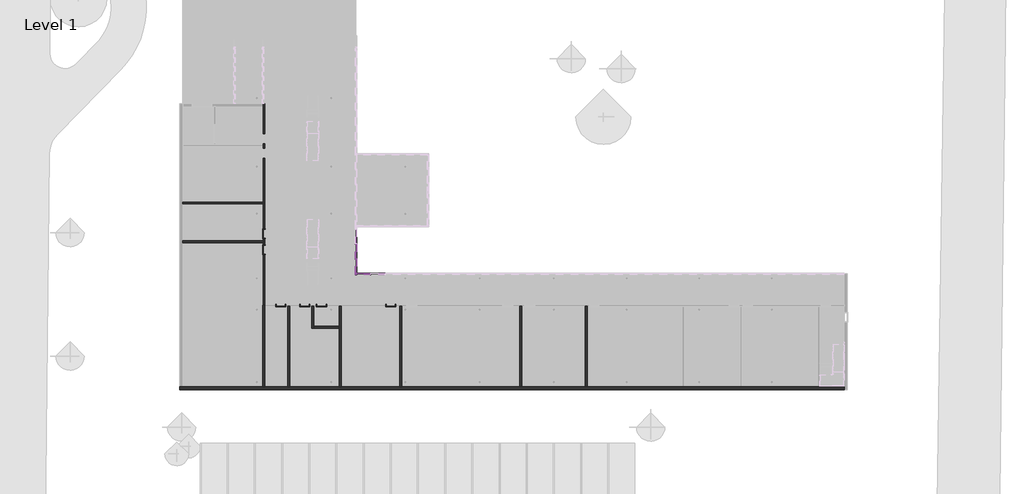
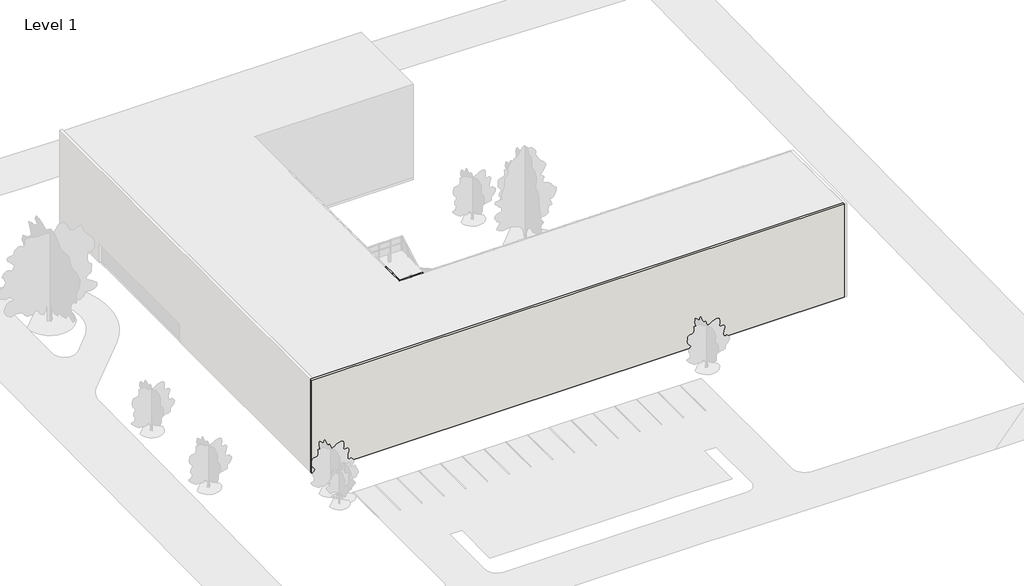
# One storey, part 1 of 27: 60 members, 32 plates, 12 walls, 6 doors.
"""IFC4 building model written with IfcOpenShell, lengths in millimetres."""

from ifc_helpers import new_model, si_unit, origin, origin_with_axes, place, context, project, spatial, polyline, outline, extrude, faceted_brep, transform, mapped, element, save
from components import door_0915mm_x_2134mm_2aa27b83, door_0915mm_x_2134mm_3fa07aa3, quad_corner_mullion_quad_mullion_1_893af7fe, quad_corner_mullion_quad_mullion_1_37ac55ff, quad_corner_mullion_quad_mullion_1_d5379b67, rectangular_mullion_50mm_x_150mm_5f185edf, rectangular_mullion_50mm_x_150mm_e13fe9f0, rectangular_mullion_50mm_x_150mm_70cae3e1, rectangular_mullion_50mm_x_150mm_5226f6e8, rectangular_mullion_50mm_x_150mm_4fd86324, rectangular_mullion_50mm_x_150mm_6edb5cd3, rectangular_mullion_50mm_x_150mm_bba830a1, rectangular_mullion_50mm_x_150mm_9219ffc6, rectangular_mullion_50mm_x_150mm_bbc1c4ea, rectangular_mullion_50mm_x_150mm_36202a7c, rectangular_mullion_50mm_x_150mm_84717ec5, system_panel_glazed_65478968, system_panel_glazed_0eb4fe1c, system_panel_glazed_4c130a31, system_panel_glazed_ff4bdd81, system_panel_glazed_979b1f5c, system_panel_glazed_2d0f29b6, system_panel_glazed_2f061a2c, system_panel_glazed_cb2ac81e, system_panel_solid_368a6b70, system_panel_solid_83e87f64, system_panel_solid_59448bce, system_panel_solid_281aa57f, system_panel_solid_7338a288, system_panel_solid_71fc82a1, system_panel_solid_0b170172

model = new_model("IFC4")

# Units and contexts
model_context = context("Model", 3, world=origin())
ifc_project = project(units=[si_unit("LENGTHUNIT", "METRE", prefix="MILLI")], contexts=[model_context])

# Site, building, storey
site = spatial("IfcSite", under=ifc_project)
building = spatial("IfcBuilding", under=site)
storey = spatial("IfcBuildingStorey", under=building, Name="Level 1", Elevation=0.0)

# Doors
placement = place(None, origin())
door_0915mm_x_2134mm_shape = door_0915mm_x_2134mm_2aa27b83(model_context)
element("IfcDoor", 1, ObjectType="m-doors-hm-f1-a : 0915mm x 2134mm", at=placement, inside=storey, context=model_context, shape_type="MappedRepresentation", body=[
    mapped(door_0915mm_x_2134mm_shape, transform((-1995.8386635, -8075.8611817, 0.0), x_axis=(0.0, 1.0, 0.0), y_axis=(-1.0, 0.0, 0.0), z_axis=(0.0, 0.0, 1.0))),
])
element("IfcDoor", 2, ObjectType="m-doors-hm-f1-a : 0915mm x 2134mm", at=placement, inside=storey, context=model_context, shape_type="MappedRepresentation", body=[
    mapped(door_0915mm_x_2134mm_shape, transform((-123.8386635, -15479.7006057, 0.0), x_axis=(-1.0, 0.0, 0.0), y_axis=(0.0, -1.0, 0.0), z_axis=(0.0, 0.0, 1.0))),
])
element("IfcDoor", 3, ObjectType="m-doors-hm-f1-a : 0915mm x 2134mm", at=placement, inside=storey, context=model_context, shape_type="MappedRepresentation", body=[
    mapped(door_0915mm_x_2134mm_shape, transform((2284.1613365, -15479.7006057, 0.0), x_axis=(-1.0, 0.0, 0.0), y_axis=(0.0, -1.0, 0.0), z_axis=(0.0, 0.0, 1.0))),
])
element("IfcDoor", 4, ObjectType="m-doors-hm-f1-a : 0915mm x 2134mm", at=placement, inside=storey, context=model_context, shape_type="MappedRepresentation", body=[
    mapped(door_0915mm_x_2134mm_shape, transform((10961.1968037, -15479.7006057, 0.0), x_axis=(-1.0, 0.0, 0.0), y_axis=(0.0, -1.0, 0.0), z_axis=(0.0, 0.0, 1.0))),
])
door_0915mm_x_2134mm_2_shape = door_0915mm_x_2134mm_3fa07aa3(model_context)
element("IfcDoor", 5, ObjectType="m-doors-hm-f1-a : 0915mm x 2134mm", at=placement, inside=storey, context=model_context, shape_type="MappedRepresentation", body=[
    mapped(door_0915mm_x_2134mm_2_shape, transform((-1995.8386635, -9675.8611817, 0.0), x_axis=(0.0, -1.0, 0.0), y_axis=(1.0, 0.0, 0.0), z_axis=(0.0, 0.0, 1.0))),
])
element("IfcDoor", 6, ObjectType="m-doors-hm-f1-a : 0915mm x 2134mm", at=placement, inside=storey, context=model_context, shape_type="MappedRepresentation", body=[
    mapped(door_0915mm_x_2134mm_2_shape, transform((3984.1613365, -15479.7006057, 0.0), x_axis=(1.0, 0.0, 0.0), y_axis=(0.0, 1.0, 0.0), z_axis=(0.0, 0.0, 1.0))),
])

# Members
quad_corner_mullion_quad_mullion_1_shape = quad_corner_mullion_quad_mullion_1_893af7fe(model_context)
element("IfcMember", 7, ObjectType="Quad Corner Mullion : Quad Mullion 1", at=placement, inside=storey, context=model_context, shape_type="MappedRepresentation", body=[
    mapped(quad_corner_mullion_quad_mullion_1_shape, transform((7447.5010724, -12132.3615692, 11400.0), x_axis=(-1.0, 0.0, 0.0), y_axis=(0.0, 1.0, 0.0), z_axis=(0.0, 0.0, -1.0))),
])
quad_corner_mullion_quad_mullion_1_2_shape = quad_corner_mullion_quad_mullion_1_37ac55ff(model_context)
element("IfcMember", 8, ObjectType="Quad Corner Mullion : Quad Mullion 1", at=placement, inside=storey, context=model_context, shape_type="MappedRepresentation", body=[
    mapped(quad_corner_mullion_quad_mullion_1_2_shape, transform((7447.5010724, -12132.3615692, 0.0), x_axis=(-1.0, 0.0, 0.0), y_axis=(0.0, 1.0, 0.0), z_axis=(0.0, 0.0, -1.0))),
])
quad_corner_mullion_quad_mullion_1_3_shape = quad_corner_mullion_quad_mullion_1_d5379b67(model_context)
element("IfcMember", 9, ObjectType="Quad Corner Mullion : Quad Mullion 1", at=placement, inside=storey, context=model_context, shape_type="MappedRepresentation", body=[
    mapped(quad_corner_mullion_quad_mullion_1_3_shape, transform((7447.5010724, -12132.3615692, 2440.0), x_axis=(-1.0, 0.0, 0.0), y_axis=(0.0, 1.0, 0.0), z_axis=(0.0, 0.0, -1.0))),
])
element("IfcMember", 10, ObjectType="Quad Corner Mullion : Quad Mullion 1", at=placement, inside=storey, context=model_context, shape_type="MappedRepresentation", body=[
    mapped(quad_corner_mullion_quad_mullion_1_3_shape, transform((7447.5010724, -12132.3615692, 6240.0), x_axis=(-1.0, 0.0, 0.0), y_axis=(0.0, 1.0, 0.0), z_axis=(0.0, 0.0, -1.0))),
])
element("IfcMember", 11, ObjectType="Quad Corner Mullion : Quad Mullion 1", at=placement, inside=storey, context=model_context, shape_type="MappedRepresentation", body=[
    mapped(quad_corner_mullion_quad_mullion_1_3_shape, transform((7447.5010724, -12132.3615692, 10040.0), x_axis=(-1.0, 0.0, 0.0), y_axis=(0.0, 1.0, 0.0), z_axis=(0.0, 0.0, -1.0))),
])
element("IfcMember", 12, ObjectType="Quad Corner Mullion : Quad Mullion 1", at=placement, inside=storey, context=model_context, shape_type="MappedRepresentation", body=[
    mapped(quad_corner_mullion_quad_mullion_1_2_shape, transform((7447.5010724, -12132.3615692, 3800.0), x_axis=(-1.0, 0.0, 0.0), y_axis=(0.0, 1.0, 0.0), z_axis=(0.0, 0.0, -1.0))),
])
element("IfcMember", 13, ObjectType="Quad Corner Mullion : Quad Mullion 1", at=placement, inside=storey, context=model_context, shape_type="MappedRepresentation", body=[
    mapped(quad_corner_mullion_quad_mullion_1_2_shape, transform((7447.5010724, -12132.3615692, 7600.0), x_axis=(-1.0, 0.0, 0.0), y_axis=(0.0, 1.0, 0.0), z_axis=(0.0, 0.0, -1.0))),
])
rectangular_mullion_50mm_x_150mm_shape = rectangular_mullion_50mm_x_150mm_5f185edf(model_context)
element("IfcMember", 14, ObjectType="Rectangular Mullion : 50mm x 150mm", at=placement, inside=storey, context=model_context, shape_type="MappedRepresentation", body=[
    mapped(rectangular_mullion_50mm_x_150mm_shape, transform((8964.9742928, -12132.3615692, 12400.0), x_axis=(0.0, 0.0, 1.0), y_axis=(0.0, 1.0, 0.0), z_axis=(-1.0, 0.0, 0.0))),
])
rectangular_mullion_50mm_x_150mm_2_shape = rectangular_mullion_50mm_x_150mm_e13fe9f0(model_context)
element("IfcMember", 15, ObjectType="Rectangular Mullion : 50mm x 150mm", at=placement, inside=storey, context=model_context, shape_type="MappedRepresentation", body=[
    mapped(rectangular_mullion_50mm_x_150mm_2_shape, transform((8964.9742928, -12132.3615692, 3800.0), x_axis=(0.0, 0.0, 1.0), y_axis=(0.0, 1.0, 0.0), z_axis=(-1.0, 0.0, 0.0))),
])
element("IfcMember", 16, ObjectType="Rectangular Mullion : 50mm x 150mm", at=placement, inside=storey, context=model_context, shape_type="MappedRepresentation", body=[
    mapped(rectangular_mullion_50mm_x_150mm_2_shape, transform((8964.9742928, -12132.3615692, 7600.0), x_axis=(0.0, 0.0, 1.0), y_axis=(0.0, 1.0, 0.0), z_axis=(-1.0, 0.0, 0.0))),
])
element("IfcMember", 17, ObjectType="Rectangular Mullion : 50mm x 150mm", at=placement, inside=storey, context=model_context, shape_type="MappedRepresentation", body=[
    mapped(rectangular_mullion_50mm_x_150mm_2_shape, transform((8964.9742928, -12132.3615692, 11400.0), x_axis=(0.0, 0.0, 1.0), y_axis=(0.0, 1.0, 0.0), z_axis=(-1.0, 0.0, 0.0))),
])
element("IfcMember", 18, ObjectType="Rectangular Mullion : 50mm x 150mm", at=placement, inside=storey, context=model_context, shape_type="MappedRepresentation", body=[
    mapped(rectangular_mullion_50mm_x_150mm_2_shape, transform((8964.9742928, -12132.3615692, 2440.0), x_axis=(0.0, 0.0, 1.0), y_axis=(0.0, 1.0, 0.0), z_axis=(-1.0, 0.0, 0.0))),
])
element("IfcMember", 19, ObjectType="Rectangular Mullion : 50mm x 150mm", at=placement, inside=storey, context=model_context, shape_type="MappedRepresentation", body=[
    mapped(rectangular_mullion_50mm_x_150mm_2_shape, transform((8964.9742928, -12132.3615692, 6240.0), x_axis=(0.0, 0.0, 1.0), y_axis=(0.0, 1.0, 0.0), z_axis=(-1.0, 0.0, 0.0))),
])
element("IfcMember", 20, ObjectType="Rectangular Mullion : 50mm x 150mm", at=placement, inside=storey, context=model_context, shape_type="MappedRepresentation", body=[
    mapped(rectangular_mullion_50mm_x_150mm_2_shape, transform((8964.9742928, -12132.3615692, 10040.0), x_axis=(0.0, 0.0, 1.0), y_axis=(0.0, 1.0, 0.0), z_axis=(-1.0, 0.0, 0.0))),
])
rectangular_mullion_50mm_x_150mm_3_shape = rectangular_mullion_50mm_x_150mm_70cae3e1(model_context)
element("IfcMember", 21, ObjectType="Rectangular Mullion : 50mm x 150mm", at=placement, inside=storey, context=model_context, shape_type="MappedRepresentation", body=[
    mapped(rectangular_mullion_50mm_x_150mm_3_shape, transform((7447.5010724, -9152.8662571, 12400.0), x_axis=(0.0, 0.0, 1.0), y_axis=(1.0, 0.0, 0.0), z_axis=(0.0, 1.0, 0.0))),
])
element("IfcMember", 22, ObjectType="Rectangular Mullion : 50mm x 150mm", at=placement, inside=storey, context=model_context, shape_type="MappedRepresentation", body=[
    mapped(rectangular_mullion_50mm_x_150mm_3_shape, transform((7447.5010724, -10605.113913, 0.0), x_axis=(0.0, 0.0, -1.0), y_axis=(1.0, 0.0, 0.0), z_axis=(0.0, -1.0, 0.0))),
])
element("IfcMember", 23, ObjectType="Rectangular Mullion : 50mm x 150mm", at=placement, inside=storey, context=model_context, shape_type="MappedRepresentation", body=[
    mapped(rectangular_mullion_50mm_x_150mm_3_shape, transform((7447.5010724, -9102.8662571, 0.0), x_axis=(0.0, 0.0, -1.0), y_axis=(1.0, 0.0, 0.0), z_axis=(0.0, -1.0, 0.0))),
])
rectangular_mullion_50mm_x_150mm_4_shape = rectangular_mullion_50mm_x_150mm_5226f6e8(model_context)
element("IfcMember", 24, ObjectType="Rectangular Mullion : 50mm x 150mm", at=placement, inside=storey, context=model_context, shape_type="MappedRepresentation", body=[
    mapped(rectangular_mullion_50mm_x_150mm_4_shape, transform((7447.5010724, -9152.8662571, 3800.0), x_axis=(0.0, 0.0, 1.0), y_axis=(1.0, 0.0, 0.0), z_axis=(0.0, 1.0, 0.0))),
])
element("IfcMember", 25, ObjectType="Rectangular Mullion : 50mm x 150mm", at=placement, inside=storey, context=model_context, shape_type="MappedRepresentation", body=[
    mapped(rectangular_mullion_50mm_x_150mm_4_shape, transform((7447.5010724, -9152.8662571, 7600.0), x_axis=(0.0, 0.0, 1.0), y_axis=(1.0, 0.0, 0.0), z_axis=(0.0, 1.0, 0.0))),
])
element("IfcMember", 26, ObjectType="Rectangular Mullion : 50mm x 150mm", at=placement, inside=storey, context=model_context, shape_type="MappedRepresentation", body=[
    mapped(rectangular_mullion_50mm_x_150mm_4_shape, transform((7447.5010724, -9152.8662571, 11400.0), x_axis=(0.0, 0.0, 1.0), y_axis=(1.0, 0.0, 0.0), z_axis=(0.0, 1.0, 0.0))),
])
element("IfcMember", 27, ObjectType="Rectangular Mullion : 50mm x 150mm", at=placement, inside=storey, context=model_context, shape_type="MappedRepresentation", body=[
    mapped(rectangular_mullion_50mm_x_150mm_4_shape, transform((7447.5010724, -9152.8662571, 10040.0), x_axis=(0.0, 0.0, 1.0), y_axis=(1.0, 0.0, 0.0), z_axis=(0.0, 1.0, 0.0))),
])
element("IfcMember", 28, ObjectType="Rectangular Mullion : 50mm x 150mm", at=placement, inside=storey, context=model_context, shape_type="MappedRepresentation", body=[
    mapped(rectangular_mullion_50mm_x_150mm_4_shape, transform((7447.5010724, -9152.8662571, 6240.0), x_axis=(0.0, 0.0, 1.0), y_axis=(1.0, 0.0, 0.0), z_axis=(0.0, 1.0, 0.0))),
])
element("IfcMember", 29, ObjectType="Rectangular Mullion : 50mm x 150mm", at=placement, inside=storey, context=model_context, shape_type="MappedRepresentation", body=[
    mapped(rectangular_mullion_50mm_x_150mm_4_shape, transform((7447.5010724, -9152.8662571, 2440.0), x_axis=(0.0, 0.0, 1.0), y_axis=(1.0, 0.0, 0.0), z_axis=(0.0, 1.0, 0.0))),
])
rectangular_mullion_50mm_x_150mm_5_shape = rectangular_mullion_50mm_x_150mm_4fd86324(model_context)
element("IfcMember", 30, ObjectType="Rectangular Mullion : 50mm x 150mm", at=placement, inside=storey, context=model_context, shape_type="MappedRepresentation", body=[
    mapped(rectangular_mullion_50mm_x_150mm_5_shape, transform((7447.5010724, -10655.113913, 12400.0), x_axis=(0.0, 0.0, 1.0), y_axis=(1.0, 0.0, 0.0), z_axis=(0.0, 1.0, 0.0))),
])
element("IfcMember", 31, ObjectType="Rectangular Mullion : 50mm x 150mm", at=placement, inside=storey, context=model_context, shape_type="MappedRepresentation", body=[
    mapped(rectangular_mullion_50mm_x_150mm_5_shape, transform((7447.5010724, -12057.3615692, 0.0), x_axis=(0.0, 0.0, -1.0), y_axis=(1.0, 0.0, 0.0), z_axis=(0.0, -1.0, 0.0))),
])
rectangular_mullion_50mm_x_150mm_6_shape = rectangular_mullion_50mm_x_150mm_6edb5cd3(model_context)
element("IfcMember", 32, ObjectType="Rectangular Mullion : 50mm x 150mm", at=placement, inside=storey, context=model_context, shape_type="MappedRepresentation", body=[
    mapped(rectangular_mullion_50mm_x_150mm_6_shape, transform((7447.5010724, -10655.113913, 3800.0), x_axis=(0.0, 0.0, 1.0), y_axis=(1.0, 0.0, 0.0), z_axis=(0.0, 1.0, 0.0))),
])
element("IfcMember", 33, ObjectType="Rectangular Mullion : 50mm x 150mm", at=placement, inside=storey, context=model_context, shape_type="MappedRepresentation", body=[
    mapped(rectangular_mullion_50mm_x_150mm_6_shape, transform((7447.5010724, -10655.113913, 7600.0), x_axis=(0.0, 0.0, 1.0), y_axis=(1.0, 0.0, 0.0), z_axis=(0.0, 1.0, 0.0))),
])
element("IfcMember", 34, ObjectType="Rectangular Mullion : 50mm x 150mm", at=placement, inside=storey, context=model_context, shape_type="MappedRepresentation", body=[
    mapped(rectangular_mullion_50mm_x_150mm_6_shape, transform((7447.5010724, -10655.113913, 11400.0), x_axis=(0.0, 0.0, 1.0), y_axis=(1.0, 0.0, 0.0), z_axis=(0.0, 1.0, 0.0))),
])
element("IfcMember", 35, ObjectType="Rectangular Mullion : 50mm x 150mm", at=placement, inside=storey, context=model_context, shape_type="MappedRepresentation", body=[
    mapped(rectangular_mullion_50mm_x_150mm_6_shape, transform((7447.5010724, -10655.113913, 10040.0), x_axis=(0.0, 0.0, 1.0), y_axis=(1.0, 0.0, 0.0), z_axis=(0.0, 1.0, 0.0))),
])
element("IfcMember", 36, ObjectType="Rectangular Mullion : 50mm x 150mm", at=placement, inside=storey, context=model_context, shape_type="MappedRepresentation", body=[
    mapped(rectangular_mullion_50mm_x_150mm_6_shape, transform((7447.5010724, -10655.113913, 6240.0), x_axis=(0.0, 0.0, 1.0), y_axis=(1.0, 0.0, 0.0), z_axis=(0.0, 1.0, 0.0))),
])
element("IfcMember", 37, ObjectType="Rectangular Mullion : 50mm x 150mm", at=placement, inside=storey, context=model_context, shape_type="MappedRepresentation", body=[
    mapped(rectangular_mullion_50mm_x_150mm_6_shape, transform((7447.5010724, -10655.113913, 2440.0), x_axis=(0.0, 0.0, 1.0), y_axis=(1.0, 0.0, 0.0), z_axis=(0.0, 1.0, 0.0))),
])
rectangular_mullion_50mm_x_150mm_7_shape = rectangular_mullion_50mm_x_150mm_bba830a1(model_context)
element("IfcMember", 38, ObjectType="Rectangular Mullion : 50mm x 150mm", at=placement, inside=storey, context=model_context, shape_type="MappedRepresentation", body=[
    mapped(rectangular_mullion_50mm_x_150mm_7_shape, transform((7522.5010724, -12132.3615692, 12400.0), x_axis=(0.0, 0.0, 1.0), y_axis=(0.0, 1.0, 0.0), z_axis=(-1.0, 0.0, 0.0))),
])
element("IfcMember", 39, ObjectType="Rectangular Mullion : 50mm x 150mm", at=placement, inside=storey, context=model_context, shape_type="MappedRepresentation", body=[
    mapped(rectangular_mullion_50mm_x_150mm_7_shape, transform((8914.9742928, -12132.3615692, 0.0), x_axis=(0.0, 0.0, -1.0), y_axis=(0.0, 1.0, 0.0), z_axis=(1.0, 0.0, 0.0))),
])
rectangular_mullion_50mm_x_150mm_8_shape = rectangular_mullion_50mm_x_150mm_9219ffc6(model_context)
element("IfcMember", 40, ObjectType="Rectangular Mullion : 50mm x 150mm", at=placement, inside=storey, context=model_context, shape_type="MappedRepresentation", body=[
    mapped(rectangular_mullion_50mm_x_150mm_8_shape, transform((7522.5010724, -12132.3615692, 3800.0), x_axis=(0.0, 0.0, 1.0), y_axis=(0.0, 1.0, 0.0), z_axis=(-1.0, 0.0, 0.0))),
])
element("IfcMember", 41, ObjectType="Rectangular Mullion : 50mm x 150mm", at=placement, inside=storey, context=model_context, shape_type="MappedRepresentation", body=[
    mapped(rectangular_mullion_50mm_x_150mm_8_shape, transform((7522.5010724, -12132.3615692, 7600.0), x_axis=(0.0, 0.0, 1.0), y_axis=(0.0, 1.0, 0.0), z_axis=(-1.0, 0.0, 0.0))),
])
element("IfcMember", 42, ObjectType="Rectangular Mullion : 50mm x 150mm", at=placement, inside=storey, context=model_context, shape_type="MappedRepresentation", body=[
    mapped(rectangular_mullion_50mm_x_150mm_8_shape, transform((7522.5010724, -12132.3615692, 11400.0), x_axis=(0.0, 0.0, 1.0), y_axis=(0.0, 1.0, 0.0), z_axis=(-1.0, 0.0, 0.0))),
])
element("IfcMember", 43, ObjectType="Rectangular Mullion : 50mm x 150mm", at=placement, inside=storey, context=model_context, shape_type="MappedRepresentation", body=[
    mapped(rectangular_mullion_50mm_x_150mm_8_shape, transform((7522.5010724, -12132.3615692, 2440.0), x_axis=(0.0, 0.0, 1.0), y_axis=(0.0, 1.0, 0.0), z_axis=(-1.0, 0.0, 0.0))),
])
element("IfcMember", 44, ObjectType="Rectangular Mullion : 50mm x 150mm", at=placement, inside=storey, context=model_context, shape_type="MappedRepresentation", body=[
    mapped(rectangular_mullion_50mm_x_150mm_8_shape, transform((7522.5010724, -12132.3615692, 6240.0), x_axis=(0.0, 0.0, 1.0), y_axis=(0.0, 1.0, 0.0), z_axis=(-1.0, 0.0, 0.0))),
])
element("IfcMember", 45, ObjectType="Rectangular Mullion : 50mm x 150mm", at=placement, inside=storey, context=model_context, shape_type="MappedRepresentation", body=[
    mapped(rectangular_mullion_50mm_x_150mm_8_shape, transform((7522.5010724, -12132.3615692, 10040.0), x_axis=(0.0, 0.0, 1.0), y_axis=(0.0, 1.0, 0.0), z_axis=(-1.0, 0.0, 0.0))),
])
rectangular_mullion_50mm_x_150mm_9_shape = rectangular_mullion_50mm_x_150mm_bbc1c4ea(model_context)
element("IfcMember", 46, ObjectType="Rectangular Mullion : 50mm x 150mm", at=placement, inside=storey, context=model_context, shape_type="MappedRepresentation", body=[
    mapped(rectangular_mullion_50mm_x_150mm_9_shape, transform((8939.9742928, -12132.3615692, 11400.0), x_axis=(-1.0, 0.0, 0.0), y_axis=(0.0, 1.0, 0.0), z_axis=(0.0, 0.0, -1.0))),
])
element("IfcMember", 47, ObjectType="Rectangular Mullion : 50mm x 150mm", at=placement, inside=storey, context=model_context, shape_type="MappedRepresentation", body=[
    mapped(rectangular_mullion_50mm_x_150mm_9_shape, transform((7447.5010724, -10630.113913, 11400.0), x_axis=(0.0, 1.0, 0.0), y_axis=(1.0, 0.0, 0.0), z_axis=(0.0, 0.0, -1.0))),
])
element("IfcMember", 48, ObjectType="Rectangular Mullion : 50mm x 150mm", at=placement, inside=storey, context=model_context, shape_type="MappedRepresentation", body=[
    mapped(rectangular_mullion_50mm_x_150mm_9_shape, transform((7447.5010724, -9127.8662571, 11400.0), x_axis=(0.0, 1.0, 0.0), y_axis=(1.0, 0.0, 0.0), z_axis=(0.0, 0.0, -1.0))),
])
rectangular_mullion_50mm_x_150mm_10_shape = rectangular_mullion_50mm_x_150mm_36202a7c(model_context)
element("IfcMember", 49, ObjectType="Rectangular Mullion : 50mm x 150mm", at=placement, inside=storey, context=model_context, shape_type="MappedRepresentation", body=[
    mapped(rectangular_mullion_50mm_x_150mm_10_shape, transform((8939.9742928, -12132.3615692, 0.0), x_axis=(-1.0, 0.0, 0.0), y_axis=(0.0, 1.0, 0.0), z_axis=(0.0, 0.0, -1.0))),
])
element("IfcMember", 50, ObjectType="Rectangular Mullion : 50mm x 150mm", at=placement, inside=storey, context=model_context, shape_type="MappedRepresentation", body=[
    mapped(rectangular_mullion_50mm_x_150mm_10_shape, transform((7447.5010724, -10630.113913, 0.0), x_axis=(0.0, 1.0, 0.0), y_axis=(1.0, 0.0, 0.0), z_axis=(0.0, 0.0, -1.0))),
])
element("IfcMember", 51, ObjectType="Rectangular Mullion : 50mm x 150mm", at=placement, inside=storey, context=model_context, shape_type="MappedRepresentation", body=[
    mapped(rectangular_mullion_50mm_x_150mm_10_shape, transform((7447.5010724, -9127.8662571, 0.0), x_axis=(0.0, 1.0, 0.0), y_axis=(1.0, 0.0, 0.0), z_axis=(0.0, 0.0, -1.0))),
])
rectangular_mullion_50mm_x_150mm_11_shape = rectangular_mullion_50mm_x_150mm_84717ec5(model_context)
element("IfcMember", 52, ObjectType="Rectangular Mullion : 50mm x 150mm", at=placement, inside=storey, context=model_context, shape_type="MappedRepresentation", body=[
    mapped(rectangular_mullion_50mm_x_150mm_11_shape, transform((8939.9742928, -12132.3615692, 2440.0), x_axis=(-1.0, 0.0, 0.0), y_axis=(0.0, 1.0, 0.0), z_axis=(0.0, 0.0, -1.0))),
])
element("IfcMember", 53, ObjectType="Rectangular Mullion : 50mm x 150mm", at=placement, inside=storey, context=model_context, shape_type="MappedRepresentation", body=[
    mapped(rectangular_mullion_50mm_x_150mm_11_shape, transform((8939.9742928, -12132.3615692, 6240.0), x_axis=(-1.0, 0.0, 0.0), y_axis=(0.0, 1.0, 0.0), z_axis=(0.0, 0.0, -1.0))),
])
element("IfcMember", 54, ObjectType="Rectangular Mullion : 50mm x 150mm", at=placement, inside=storey, context=model_context, shape_type="MappedRepresentation", body=[
    mapped(rectangular_mullion_50mm_x_150mm_11_shape, transform((8939.9742928, -12132.3615692, 10040.0), x_axis=(-1.0, 0.0, 0.0), y_axis=(0.0, 1.0, 0.0), z_axis=(0.0, 0.0, -1.0))),
])
element("IfcMember", 55, ObjectType="Rectangular Mullion : 50mm x 150mm", at=placement, inside=storey, context=model_context, shape_type="MappedRepresentation", body=[
    mapped(rectangular_mullion_50mm_x_150mm_11_shape, transform((7447.5010724, -10630.113913, 10040.0), x_axis=(0.0, 1.0, 0.0), y_axis=(1.0, 0.0, 0.0), z_axis=(0.0, 0.0, -1.0))),
])
element("IfcMember", 56, ObjectType="Rectangular Mullion : 50mm x 150mm", at=placement, inside=storey, context=model_context, shape_type="MappedRepresentation", body=[
    mapped(rectangular_mullion_50mm_x_150mm_11_shape, transform((7447.5010724, -9127.8662571, 10040.0), x_axis=(0.0, 1.0, 0.0), y_axis=(1.0, 0.0, 0.0), z_axis=(0.0, 0.0, -1.0))),
])
element("IfcMember", 57, ObjectType="Rectangular Mullion : 50mm x 150mm", at=placement, inside=storey, context=model_context, shape_type="MappedRepresentation", body=[
    mapped(rectangular_mullion_50mm_x_150mm_11_shape, transform((7447.5010724, -10630.113913, 6240.0), x_axis=(0.0, 1.0, 0.0), y_axis=(1.0, 0.0, 0.0), z_axis=(0.0, 0.0, -1.0))),
])
element("IfcMember", 58, ObjectType="Rectangular Mullion : 50mm x 150mm", at=placement, inside=storey, context=model_context, shape_type="MappedRepresentation", body=[
    mapped(rectangular_mullion_50mm_x_150mm_11_shape, transform((7447.5010724, -9127.8662571, 6240.0), x_axis=(0.0, 1.0, 0.0), y_axis=(1.0, 0.0, 0.0), z_axis=(0.0, 0.0, -1.0))),
])
element("IfcMember", 59, ObjectType="Rectangular Mullion : 50mm x 150mm", at=placement, inside=storey, context=model_context, shape_type="MappedRepresentation", body=[
    mapped(rectangular_mullion_50mm_x_150mm_11_shape, transform((7447.5010724, -10630.113913, 2440.0), x_axis=(0.0, 1.0, 0.0), y_axis=(1.0, 0.0, 0.0), z_axis=(0.0, 0.0, -1.0))),
])
element("IfcMember", 60, ObjectType="Rectangular Mullion : 50mm x 150mm", at=placement, inside=storey, context=model_context, shape_type="MappedRepresentation", body=[
    mapped(rectangular_mullion_50mm_x_150mm_11_shape, transform((7447.5010724, -9127.8662571, 2440.0), x_axis=(0.0, 1.0, 0.0), y_axis=(1.0, 0.0, 0.0), z_axis=(0.0, 0.0, -1.0))),
])
element("IfcMember", 61, ObjectType="Rectangular Mullion : 50mm x 150mm", at=placement, inside=storey, context=model_context, shape_type="MappedRepresentation", body=[
    mapped(rectangular_mullion_50mm_x_150mm_10_shape, transform((8939.9742928, -12132.3615692, 3800.0), x_axis=(-1.0, 0.0, 0.0), y_axis=(0.0, 1.0, 0.0), z_axis=(0.0, 0.0, -1.0))),
])
element("IfcMember", 62, ObjectType="Rectangular Mullion : 50mm x 150mm", at=placement, inside=storey, context=model_context, shape_type="MappedRepresentation", body=[
    mapped(rectangular_mullion_50mm_x_150mm_10_shape, transform((8939.9742928, -12132.3615692, 7600.0), x_axis=(-1.0, 0.0, 0.0), y_axis=(0.0, 1.0, 0.0), z_axis=(0.0, 0.0, -1.0))),
])
element("IfcMember", 63, ObjectType="Rectangular Mullion : 50mm x 150mm", at=placement, inside=storey, context=model_context, shape_type="MappedRepresentation", body=[
    mapped(rectangular_mullion_50mm_x_150mm_10_shape, transform((7447.5010724, -10630.113913, 3800.0), x_axis=(0.0, 1.0, 0.0), y_axis=(1.0, 0.0, 0.0), z_axis=(0.0, 0.0, -1.0))),
])
element("IfcMember", 64, ObjectType="Rectangular Mullion : 50mm x 150mm", at=placement, inside=storey, context=model_context, shape_type="MappedRepresentation", body=[
    mapped(rectangular_mullion_50mm_x_150mm_10_shape, transform((7447.5010724, -9127.8662571, 3800.0), x_axis=(0.0, 1.0, 0.0), y_axis=(1.0, 0.0, 0.0), z_axis=(0.0, 0.0, -1.0))),
])
element("IfcMember", 65, ObjectType="Rectangular Mullion : 50mm x 150mm", at=placement, inside=storey, context=model_context, shape_type="MappedRepresentation", body=[
    mapped(rectangular_mullion_50mm_x_150mm_10_shape, transform((7447.5010724, -10630.113913, 7600.0), x_axis=(0.0, 1.0, 0.0), y_axis=(1.0, 0.0, 0.0), z_axis=(0.0, 0.0, -1.0))),
])
element("IfcMember", 66, ObjectType="Rectangular Mullion : 50mm x 150mm", at=placement, inside=storey, context=model_context, shape_type="MappedRepresentation", body=[
    mapped(rectangular_mullion_50mm_x_150mm_10_shape, transform((7447.5010724, -9127.8662571, 7600.0), x_axis=(0.0, 1.0, 0.0), y_axis=(1.0, 0.0, 0.0), z_axis=(0.0, 0.0, -1.0))),
])

# Plates
system_panel_glazed_shape = system_panel_glazed_65478968(model_context)
element("IfcPlate", 67, ObjectType="System Panel : Glazed", at=placement, inside=storey, context=model_context, shape_type="MappedRepresentation", body=[
    mapped(system_panel_glazed_shape, transform((9686.2109029, -12132.3615692, 50.0), x_axis=(-1.0, 0.0, 0.0), y_axis=(0.0, -1.0, 0.0), z_axis=(0.0, 0.0, 1.0))),
])
system_panel_glazed_2_shape = system_panel_glazed_0eb4fe1c(model_context)
element("IfcPlate", 68, ObjectType="System Panel : Glazed", at=placement, inside=storey, context=model_context, shape_type="MappedRepresentation", body=[
    mapped(system_panel_glazed_2_shape, transform((8218.7376826, -12132.3615692, 50.0), x_axis=(-1.0, 0.0, 0.0), y_axis=(0.0, -1.0, 0.0), z_axis=(0.0, 0.0, 1.0))),
])
system_panel_glazed_3_shape = system_panel_glazed_4c130a31(model_context)
element("IfcPlate", 69, ObjectType="System Panel : Glazed", at=placement, inside=storey, context=model_context, shape_type="MappedRepresentation", body=[
    mapped(system_panel_glazed_3_shape, transform((9686.2109029, -12132.3615692, 3825.0), x_axis=(-1.0, 0.0, 0.0), y_axis=(0.0, -1.0, 0.0), z_axis=(0.0, 0.0, 1.0))),
])
element("IfcPlate", 70, ObjectType="System Panel : Glazed", at=placement, inside=storey, context=model_context, shape_type="MappedRepresentation", body=[
    mapped(system_panel_glazed_3_shape, transform((9686.2109029, -12132.3615692, 7625.0), x_axis=(-1.0, 0.0, 0.0), y_axis=(0.0, -1.0, 0.0), z_axis=(0.0, 0.0, 1.0))),
])
system_panel_glazed_4_shape = system_panel_glazed_ff4bdd81(model_context)
element("IfcPlate", 71, ObjectType="System Panel : Glazed", at=placement, inside=storey, context=model_context, shape_type="MappedRepresentation", body=[
    mapped(system_panel_glazed_4_shape, transform((8218.7376826, -12132.3615692, 3825.0), x_axis=(-1.0, 0.0, 0.0), y_axis=(0.0, -1.0, 0.0), z_axis=(0.0, 0.0, 1.0))),
])
element("IfcPlate", 72, ObjectType="System Panel : Glazed", at=placement, inside=storey, context=model_context, shape_type="MappedRepresentation", body=[
    mapped(system_panel_glazed_4_shape, transform((8218.7376826, -12132.3615692, 7625.0), x_axis=(-1.0, 0.0, 0.0), y_axis=(0.0, -1.0, 0.0), z_axis=(0.0, 0.0, 1.0))),
])
system_panel_glazed_5_shape = system_panel_glazed_979b1f5c(model_context)
element("IfcPlate", 73, ObjectType="System Panel : Glazed", at=placement, inside=storey, context=model_context, shape_type="MappedRepresentation", body=[
    mapped(system_panel_glazed_5_shape, transform((7447.5010724, -9878.990085, 3825.0), x_axis=(0.0, 1.0, 0.0), y_axis=(-1.0, 0.0, 0.0), z_axis=(0.0, 0.0, 1.0))),
])
element("IfcPlate", 74, ObjectType="System Panel : Glazed", at=placement, inside=storey, context=model_context, shape_type="MappedRepresentation", body=[
    mapped(system_panel_glazed_5_shape, transform((7447.5010724, -8376.7424291, 3825.0), x_axis=(0.0, 1.0, 0.0), y_axis=(-1.0, 0.0, 0.0), z_axis=(0.0, 0.0, 1.0))),
])
element("IfcPlate", 75, ObjectType="System Panel : Glazed", at=placement, inside=storey, context=model_context, shape_type="MappedRepresentation", body=[
    mapped(system_panel_glazed_5_shape, transform((7447.5010724, -9878.990085, 7625.0), x_axis=(0.0, 1.0, 0.0), y_axis=(-1.0, 0.0, 0.0), z_axis=(0.0, 0.0, 1.0))),
])
element("IfcPlate", 76, ObjectType="System Panel : Glazed", at=placement, inside=storey, context=model_context, shape_type="MappedRepresentation", body=[
    mapped(system_panel_glazed_5_shape, transform((7447.5010724, -8376.7424291, 7625.0), x_axis=(0.0, 1.0, 0.0), y_axis=(-1.0, 0.0, 0.0), z_axis=(0.0, 0.0, 1.0))),
])
system_panel_glazed_6_shape = system_panel_glazed_2d0f29b6(model_context)
element("IfcPlate", 77, ObjectType="System Panel : Glazed", at=placement, inside=storey, context=model_context, shape_type="MappedRepresentation", body=[
    mapped(system_panel_glazed_6_shape, transform((7447.5010724, -11356.2377411, 3825.0), x_axis=(0.0, 1.0, 0.0), y_axis=(-1.0, 0.0, 0.0), z_axis=(0.0, 0.0, 1.0))),
])
element("IfcPlate", 78, ObjectType="System Panel : Glazed", at=placement, inside=storey, context=model_context, shape_type="MappedRepresentation", body=[
    mapped(system_panel_glazed_6_shape, transform((7447.5010724, -11356.2377411, 7625.0), x_axis=(0.0, 1.0, 0.0), y_axis=(-1.0, 0.0, 0.0), z_axis=(0.0, 0.0, 1.0))),
])
system_panel_glazed_7_shape = system_panel_glazed_2f061a2c(model_context)
element("IfcPlate", 79, ObjectType="System Panel : Glazed", at=placement, inside=storey, context=model_context, shape_type="MappedRepresentation", body=[
    mapped(system_panel_glazed_7_shape, transform((7447.5010724, -9878.990085, 50.0), x_axis=(0.0, 1.0, 0.0), y_axis=(-1.0, 0.0, 0.0), z_axis=(0.0, 0.0, 1.0))),
])
element("IfcPlate", 80, ObjectType="System Panel : Glazed", at=placement, inside=storey, context=model_context, shape_type="MappedRepresentation", body=[
    mapped(system_panel_glazed_7_shape, transform((7447.5010724, -8376.7424291, 50.0), x_axis=(0.0, 1.0, 0.0), y_axis=(-1.0, 0.0, 0.0), z_axis=(0.0, 0.0, 1.0))),
])
system_panel_glazed_8_shape = system_panel_glazed_cb2ac81e(model_context)
element("IfcPlate", 81, ObjectType="System Panel : Glazed", at=placement, inside=storey, context=model_context, shape_type="MappedRepresentation", body=[
    mapped(system_panel_glazed_8_shape, transform((7447.5010724, -11356.2377411, 50.0), x_axis=(0.0, 1.0, 0.0), y_axis=(-1.0, 0.0, 0.0), z_axis=(0.0, 0.0, 1.0))),
])
system_panel_solid_shape = system_panel_solid_368a6b70(model_context)
element("IfcPlate", 82, ObjectType="System Panel : Solid", at=placement, inside=storey, context=model_context, shape_type="MappedRepresentation", body=[
    mapped(system_panel_solid_shape, transform((9686.2109029, -12132.3615692, 11425.0), x_axis=(-1.0, 0.0, 0.0), y_axis=(0.0, -1.0, 0.0), z_axis=(0.0, 0.0, 1.0))),
])
system_panel_solid_2_shape = system_panel_solid_83e87f64(model_context)
element("IfcPlate", 83, ObjectType="System Panel : Solid", at=placement, inside=storey, context=model_context, shape_type="MappedRepresentation", body=[
    mapped(system_panel_solid_2_shape, transform((8218.7376826, -12132.3615692, 11425.0), x_axis=(-1.0, 0.0, 0.0), y_axis=(0.0, -1.0, 0.0), z_axis=(0.0, 0.0, 1.0))),
])
system_panel_solid_3_shape = system_panel_solid_59448bce(model_context)
element("IfcPlate", 84, ObjectType="System Panel : Solid", at=placement, inside=storey, context=model_context, shape_type="MappedRepresentation", body=[
    mapped(system_panel_solid_3_shape, transform((8218.7376826, -12132.3615692, 2465.0), x_axis=(-1.0, 0.0, 0.0), y_axis=(0.0, -1.0, 0.0), z_axis=(0.0, 0.0, 1.0))),
])
element("IfcPlate", 85, ObjectType="System Panel : Solid", at=placement, inside=storey, context=model_context, shape_type="MappedRepresentation", body=[
    mapped(system_panel_solid_3_shape, transform((8218.7376826, -12132.3615692, 6265.0), x_axis=(-1.0, 0.0, 0.0), y_axis=(0.0, -1.0, 0.0), z_axis=(0.0, 0.0, 1.0))),
])
element("IfcPlate", 86, ObjectType="System Panel : Solid", at=placement, inside=storey, context=model_context, shape_type="MappedRepresentation", body=[
    mapped(system_panel_solid_3_shape, transform((8218.7376826, -12132.3615692, 10065.0), x_axis=(-1.0, 0.0, 0.0), y_axis=(0.0, -1.0, 0.0), z_axis=(0.0, 0.0, 1.0))),
])
system_panel_solid_4_shape = system_panel_solid_281aa57f(model_context)
element("IfcPlate", 87, ObjectType="System Panel : Solid", at=placement, inside=storey, context=model_context, shape_type="MappedRepresentation", body=[
    mapped(system_panel_solid_4_shape, transform((7447.5010724, -11356.2377411, 11425.0), x_axis=(0.0, 1.0, 0.0), y_axis=(-1.0, 0.0, 0.0), z_axis=(0.0, 0.0, 1.0))),
])
system_panel_solid_5_shape = system_panel_solid_7338a288(model_context)
element("IfcPlate", 88, ObjectType="System Panel : Solid", at=placement, inside=storey, context=model_context, shape_type="MappedRepresentation", body=[
    mapped(system_panel_solid_5_shape, transform((7447.5010724, -9878.990085, 11425.0), x_axis=(0.0, 1.0, 0.0), y_axis=(-1.0, 0.0, 0.0), z_axis=(0.0, 0.0, 1.0))),
])
element("IfcPlate", 89, ObjectType="System Panel : Solid", at=placement, inside=storey, context=model_context, shape_type="MappedRepresentation", body=[
    mapped(system_panel_solid_5_shape, transform((7447.5010724, -8376.7424291, 11425.0), x_axis=(0.0, 1.0, 0.0), y_axis=(-1.0, 0.0, 0.0), z_axis=(0.0, 0.0, 1.0))),
])
system_panel_solid_6_shape = system_panel_solid_71fc82a1(model_context)
element("IfcPlate", 90, ObjectType="System Panel : Solid", at=placement, inside=storey, context=model_context, shape_type="MappedRepresentation", body=[
    mapped(system_panel_solid_6_shape, transform((7447.5010724, -11356.2377411, 10065.0), x_axis=(0.0, 1.0, 0.0), y_axis=(-1.0, 0.0, 0.0), z_axis=(0.0, 0.0, 1.0))),
])
element("IfcPlate", 91, ObjectType="System Panel : Solid", at=placement, inside=storey, context=model_context, shape_type="MappedRepresentation", body=[
    mapped(system_panel_solid_6_shape, transform((7447.5010724, -11356.2377411, 6265.0), x_axis=(0.0, 1.0, 0.0), y_axis=(-1.0, 0.0, 0.0), z_axis=(0.0, 0.0, 1.0))),
])
element("IfcPlate", 92, ObjectType="System Panel : Solid", at=placement, inside=storey, context=model_context, shape_type="MappedRepresentation", body=[
    mapped(system_panel_solid_6_shape, transform((7447.5010724, -11356.2377411, 2465.0), x_axis=(0.0, 1.0, 0.0), y_axis=(-1.0, 0.0, 0.0), z_axis=(0.0, 0.0, 1.0))),
])
system_panel_solid_7_shape = system_panel_solid_0b170172(model_context)
element("IfcPlate", 93, ObjectType="System Panel : Solid", at=placement, inside=storey, context=model_context, shape_type="MappedRepresentation", body=[
    mapped(system_panel_solid_7_shape, transform((7447.5010724, -9878.990085, 10065.0), x_axis=(0.0, 1.0, 0.0), y_axis=(-1.0, 0.0, 0.0), z_axis=(0.0, 0.0, 1.0))),
])
element("IfcPlate", 94, ObjectType="System Panel : Solid", at=placement, inside=storey, context=model_context, shape_type="MappedRepresentation", body=[
    mapped(system_panel_solid_7_shape, transform((7447.5010724, -8376.7424291, 10065.0), x_axis=(0.0, 1.0, 0.0), y_axis=(-1.0, 0.0, 0.0), z_axis=(0.0, 0.0, 1.0))),
])
element("IfcPlate", 95, ObjectType="System Panel : Solid", at=placement, inside=storey, context=model_context, shape_type="MappedRepresentation", body=[
    mapped(system_panel_solid_7_shape, transform((7447.5010724, -9878.990085, 6265.0), x_axis=(0.0, 1.0, 0.0), y_axis=(-1.0, 0.0, 0.0), z_axis=(0.0, 0.0, 1.0))),
])
element("IfcPlate", 96, ObjectType="System Panel : Solid", at=placement, inside=storey, context=model_context, shape_type="MappedRepresentation", body=[
    mapped(system_panel_solid_7_shape, transform((7447.5010724, -8376.7424291, 6265.0), x_axis=(0.0, 1.0, 0.0), y_axis=(-1.0, 0.0, 0.0), z_axis=(0.0, 0.0, 1.0))),
])
element("IfcPlate", 97, ObjectType="System Panel : Solid", at=placement, inside=storey, context=model_context, shape_type="MappedRepresentation", body=[
    mapped(system_panel_solid_7_shape, transform((7447.5010724, -9878.990085, 2465.0), x_axis=(0.0, 1.0, 0.0), y_axis=(-1.0, 0.0, 0.0), z_axis=(0.0, 0.0, 1.0))),
])
element("IfcPlate", 98, ObjectType="System Panel : Solid", at=placement, inside=storey, context=model_context, shape_type="MappedRepresentation", body=[
    mapped(system_panel_solid_7_shape, transform((7447.5010724, -8376.7424291, 2465.0), x_axis=(0.0, 1.0, 0.0), y_axis=(-1.0, 0.0, 0.0), z_axis=(0.0, 0.0, 1.0))),
])

# Walls
element("IfcWall", 99, ObjectType="P6 184mm - 1HR - ULC #W453", at=placement, inside=storey, context=model_context, shape_type="Brep", body=[
    faceted_brep([(-1912.8386635, -15304.7006057, 0.0), (-1912.8386635, -15304.7006057, 3550.0), (-1912.8386635, -8967.8611817, 3550.0), (-1912.8386635, -8783.8611817, 3550.0), (-1912.8386635, -5067.8611817, 3550.0), (-1912.8386635, -4883.8611817, 3550.0), (-1912.8386635, 726.5392059, 3550.0), (-1912.8386635, 910.5392059, 3550.0), (-1912.8386635, 4720.5799804, 3550.0), (-1912.8386635, 5022.5799804, 3550.0), (-1912.8386635, 5022.5799804, 0.0), (-1912.8386635, 4720.5799804, 0.0), (-1912.8386635, 2026.0392059, 0.0), (-1912.8386635, 2026.0392059, 2184.0), (-1912.8386635, 1011.0392059, 2184.0), (-1912.8386635, 1011.0392059, 0.0), (-1912.8386635, 910.5392059, 0.0), (-1912.8386635, 726.5392059, 0.0), (-1912.8386635, 526.0392059, 0.0), (-1912.8386635, 526.0392059, 2184.0), (-1912.8386635, -488.9607941, 2184.0), (-1912.8386635, -488.9607941, 0.0), (-1912.8386635, -4883.8611817, 0.0), (-1912.8386635, -5067.8611817, 0.0), (-1912.8386635, -7568.3611817, 0.0), (-1912.8386635, -7568.3611817, 2184.0), (-1912.8386635, -8583.3611817, 2184.0), (-1912.8386635, -8583.3611817, 0.0), (-1912.8386635, -8783.8611817, 0.0), (-1912.8386635, -8967.8611817, 0.0), (-1912.8386635, -9168.3611817, 0.0), (-1912.8386635, -9168.3611817, 2184.0), (-1912.8386635, -10183.3611817, 2184.0), (-1912.8386635, -10183.3611817, 0.0), (-1728.8386635, -15304.7006057, 3550.0), (-1728.8386635, -15304.7006057, 0.0), (-1728.8386635, -15212.7006057, 0.0), (-1728.8386635, -10183.3611817, 0.0), (-1728.8386635, -10183.3611817, 2184.0), (-1728.8386635, -9168.3611817, 2184.0), (-1728.8386635, -9168.3611817, 0.0), (-1728.8386635, -8583.3611817, 0.0), (-1728.8386635, -8583.3611817, 2184.0), (-1728.8386635, -7568.3611817, 2184.0), (-1728.8386635, -7568.3611817, 0.0), (-1728.8386635, -488.9607941, 0.0), (-1728.8386635, -488.9607941, 2184.0), (-1728.8386635, 526.0392059, 2184.0), (-1728.8386635, 526.0392059, 0.0), (-1728.8386635, 1011.0392059, 0.0), (-1728.8386635, 1011.0392059, 2184.0), (-1728.8386635, 2026.0392059, 2184.0), (-1728.8386635, 2026.0392059, 0.0), (-1728.8386635, 5022.5799804, 0.0), (-1728.8386635, 5022.5799804, 3550.0), (-1728.8386635, -15212.7006057, 3550.0)], [[[0, 1, 2, 3, 4, 5, 6, 7, 8, 9, 10, 11, 12, 13, 14, 15, 16, 17, 18, 19, 20, 21, 22, 23, 24, 25, 26, 27, 28, 29, 30, 31, 32, 33]], [[34, 35, 36, 37, 38, 39, 40, 41, 42, 43, 44, 45, 46, 47, 48, 49, 50, 51, 52, 53, 54, 55]], [[10, 53, 52, 12, 11]], [[35, 0, 33, 37, 36]], [[15, 49, 48, 18, 17, 16]], [[21, 45, 44, 24, 23, 22]], [[27, 41, 40, 30, 29, 28]], [[1, 0, 35, 34]], [[9, 8, 7, 6, 5, 4, 3, 2, 1, 34, 55, 54]], [[10, 9, 54, 53]], [[51, 13, 12, 52]], [[13, 51, 50, 14]], [[14, 50, 49, 15]], [[21, 20, 46, 45]], [[20, 19, 47, 46]], [[19, 18, 48, 47]], [[43, 25, 24, 44]], [[25, 43, 42, 26]], [[26, 42, 41, 27]], [[32, 38, 37, 33]], [[38, 32, 31, 39]], [[39, 31, 30, 40]]]),
])
element("IfcWall", 100, ObjectType="P6 184mm - 1HR - ULC #W453", at=placement, inside=storey, context=model_context, shape_type="SweptSolid", body=[
    extrude(outline(polyline([(-1912.8386635, -5067.8611817), (-10026.8386635, -5067.8611817), (-10026.8386635, -4883.8611817), (-1912.8386635, -4883.8611817), (-1912.8386635, -5067.8611817)])), origin_with_axes(), (0.0, 0.0, 1.0), 3550.0),
])
element("IfcWall", 101, ObjectType="P6 184mm - 1HR - ULC #W453", at=placement, inside=storey, context=model_context, shape_type="SweptSolid", body=[
    extrude(outline(polyline([(-1912.8386635, -8967.8611817), (-10026.8386635, -8967.8611817), (-10026.8386635, -8783.8611817), (-1912.8386635, -8783.8611817), (-1912.8386635, -8967.8611817)])), origin_with_axes(), (0.0, 0.0, 1.0), 3550.0),
])
element("IfcWall", 102, ObjectType="P6 184mm - 1HR - ULC #W453", at=placement, inside=storey, context=model_context, shape_type="Brep", body=[
    faceted_brep([(5769.1968037, -15396.7006057, 0.0), (5769.1968037, -17412.7006057, 0.0), (5769.1968037, -17596.7006057, 0.0), (5769.1968037, -23510.7006057, 0.0), (5769.1968037, -23510.7006057, 3550.0), (5769.1968037, -17596.7006057, 3550.0), (5769.1968037, -17412.7006057, 3550.0), (5769.1968037, -15396.7006057, 3550.0), (5953.1968037, -15396.7006057, 0.0), (5953.1968037, -15396.7006057, 3550.0), (5953.1968037, -23510.7006057, 3550.0), (5953.1968037, -23510.7006057, 0.0)], [[[0, 1, 2, 3, 4, 5, 6, 7]], [[8, 9, 10, 11]], [[3, 2, 1, 0, 8, 11]], [[7, 6, 5, 4, 10, 9]], [[0, 7, 9, 8]], [[4, 3, 11, 10]]]),
])
element("IfcWall", 103, ObjectType="P6 184mm - 1HR - ULC #W453", at=placement, inside=storey, context=model_context, shape_type="Brep", body=[
    faceted_brep([(2992.1613365, -15396.7006057, 0.0), (2992.1613365, -17596.7006057, 0.0), (2992.1613365, -17596.7006057, 3550.0), (2992.1613365, -15396.7006057, 3550.0), (3176.1613365, -15396.7006057, 0.0), (3176.1613365, -15396.7006057, 3550.0), (3176.1613365, -17412.7006057, 3550.0), (3176.1613365, -17596.7006057, 3550.0), (3176.1613365, -17596.7006057, 0.0), (3176.1613365, -17412.7006057, 0.0)], [[[0, 1, 2, 3]], [[4, 5, 6, 7, 8, 9]], [[1, 0, 4, 9, 8]], [[3, 2, 7, 6, 5]], [[0, 3, 5, 4]], [[2, 1, 8, 7]]]),
])
element("IfcWall", 104, ObjectType="P6 184mm - 1HR - ULC #W453", at=placement, inside=storey, context=model_context, shape_type="SweptSolid", body=[
    extrude(outline(polyline([(3176.1613365, -17412.7006057), (5769.1968037, -17412.7006057), (5769.1968037, -17596.7006057), (3176.1613365, -17596.7006057), (3176.1613365, -17412.7006057)])), origin_with_axes(), (0.0, 0.0, 1.0), 3550.0),
])
element("IfcWall", 105, ObjectType="Exterior - EIFS on Mtl Stud", at=placement, inside=storey, context=model_context, shape_type="Brep", body=[
    faceted_brep([(-10328.8386635, -23812.7006057, 0.0), (56699.1173382, -23812.7006057, 0.0), (56699.1173382, -23812.7006057, 12400.0), (-10328.8386635, -23812.7006057, 12400.0), (-10328.8386635, -23510.7006057, 0.0), (-10328.8386635, -23510.7006057, 12400.0), (-10026.8386635, -23510.7006057, 12400.0), (56699.1173382, -23510.7006057, 12400.0), (56699.1173382, -23510.7006057, 0.0), (54199.1173382, -23510.7006057, 0.0), (54009.1173382, -23510.7006057, 0.0), (46353.1968037, -23510.7006057, 0.0), (46169.1968037, -23510.7006057, 0.0), (40553.1968037, -23510.7006057, 0.0), (40369.1968037, -23510.7006057, 0.0), (30753.1968037, -23510.7006057, 0.0), (30569.1968037, -23510.7006057, 0.0), (24153.1968037, -23510.7006057, 0.0), (23969.1968037, -23510.7006057, 0.0), (12053.1968037, -23510.7006057, 0.0), (11869.1968037, -23510.7006057, 0.0), (5953.1968037, -23510.7006057, 0.0), (5769.1968037, -23510.7006057, 0.0), (771.1613365, -23510.7006057, 0.0), (581.1613365, -23510.7006057, 0.0), (-1728.8386635, -23510.7006057, 0.0), (-1918.8386635, -23510.7006057, 0.0), (-10026.8386635, -23510.7006057, 0.0)], [[[0, 1, 2, 3]], [[4, 5, 6, 7, 8, 9, 10, 11, 12, 13, 14, 15, 16, 17, 18, 19, 20, 21, 22, 23, 24, 25, 26, 27]], [[1, 0, 4, 27, 26, 25, 24, 23, 22, 21, 20, 19, 18, 17, 16, 15, 14, 13, 12, 11, 10, 9, 8]], [[3, 2, 7, 6, 5]], [[2, 1, 8, 7]], [[0, 3, 5, 4]]]),
])
element("IfcWall", 106, ObjectType="P28 190mm CMU 2 HR", at=placement, inside=storey, context=model_context, shape_type="SweptSolid", body=[
    extrude(outline(polyline([(581.1613365, -23510.7006057), (581.1613365, -15396.7006057), (771.1613365, -15396.7006057), (771.1613365, -23510.7006057), (581.1613365, -23510.7006057)])), origin_with_axes(), (0.0, 0.0, 1.0), 3550.0),
])
element("IfcWall", 107, ObjectType="P28 190mm CMU 2 HR", at=placement, inside=storey, context=model_context, shape_type="Brep", body=[
    faceted_brep([(-1918.8386635, -15304.7006057, 0.0), (-1918.8386635, -23510.7006057, 0.0), (-1918.8386635, -23510.7006057, 3550.0), (-1918.8386635, -15304.7006057, 3550.0), (-1728.8386635, -15304.7006057, 0.0), (-1728.8386635, -15304.7006057, 3550.0), (-1728.8386635, -15396.7006057, 3550.0), (-1728.8386635, -23510.7006057, 3550.0), (-1728.8386635, -23510.7006057, 0.0), (-1728.8386635, -15396.7006057, 0.0), (-1912.8386635, -15304.7006057, 0.0), (-1912.8386635, -15304.7006057, 3550.0)], [[[0, 1, 2, 3]], [[4, 5, 6, 7, 8, 9]], [[1, 0, 10, 4, 9, 8]], [[3, 2, 7, 6, 5, 11]], [[0, 3, 11, 5, 4, 10]], [[2, 1, 8, 7]]]),
])
element("IfcWall", 108, ObjectType="P4 184mm", at=placement, inside=storey, context=model_context, shape_type="SweptSolid", body=[
    extrude(outline(polyline([(11869.1968037, -23510.7006057), (11869.1968037, -15396.7006057), (12053.1968037, -15396.7006057), (12053.1968037, -23510.7006057), (11869.1968037, -23510.7006057)])), origin_with_axes(), (0.0, 0.0, 1.0), 3550.0),
])
element("IfcWall", 109, ObjectType="P4 184mm", at=placement, inside=storey, context=model_context, shape_type="SweptSolid", body=[
    extrude(outline(polyline([(23969.1968037, -23510.7006057), (23969.1968037, -15396.7006057), (24153.1968037, -15396.7006057), (24153.1968037, -23510.7006057), (23969.1968037, -23510.7006057)])), origin_with_axes(), (0.0, 0.0, 1.0), 3550.0),
])
element("IfcWall", 110, ObjectType="P4 184mm", at=placement, inside=storey, context=model_context, shape_type="SweptSolid", body=[
    extrude(outline(polyline([(30569.1968037, -23510.7006057), (30569.1968037, -15396.7006057), (30753.1968037, -15396.7006057), (30753.1968037, -23510.7006057), (30569.1968037, -23510.7006057)])), origin_with_axes(), (0.0, 0.0, 1.0), 3550.0),
])

save(model, "model.ifc")
